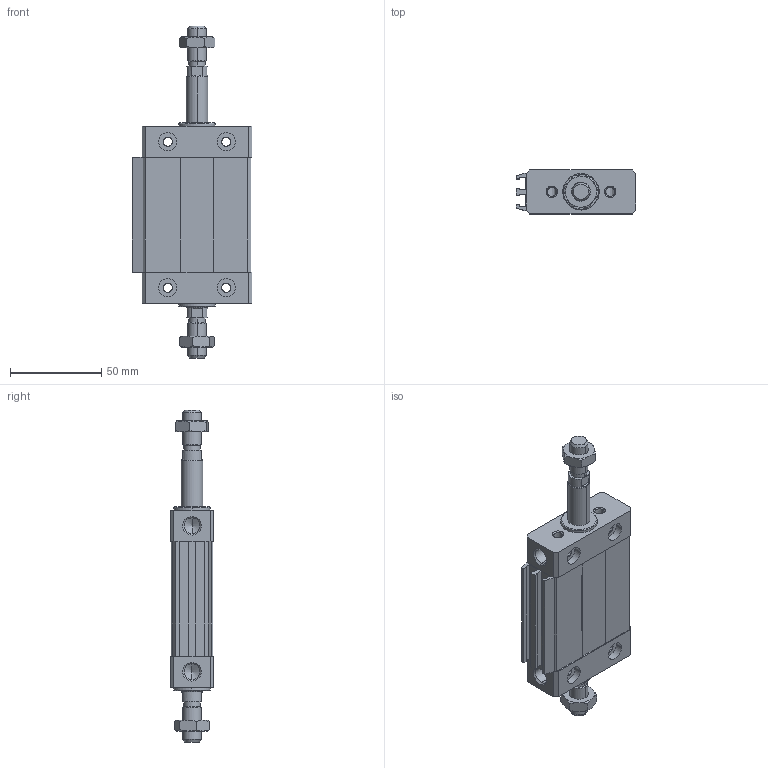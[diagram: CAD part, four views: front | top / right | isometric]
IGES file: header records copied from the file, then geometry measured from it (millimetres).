
Global section: file name: No Iges File Name specified; native system: Autodesk Inventor 2011; preprocessor: AutoDesk Inventor Iges Exporter R2011; author: airolcr1; date: 20101213.152935; units: millimetre
Bounding box: 65.5 x 24 x 182 mm (x, y, z)
Volume: 124768.5 mm3; surface area: 51133.3 mm2
Topology: 6 solids, 6 shells, 274 faces, 646 edges, 392 vertices
Faces by surface type: bspline 110, plane 96, cone 36, cylinder 18, revolution 14
